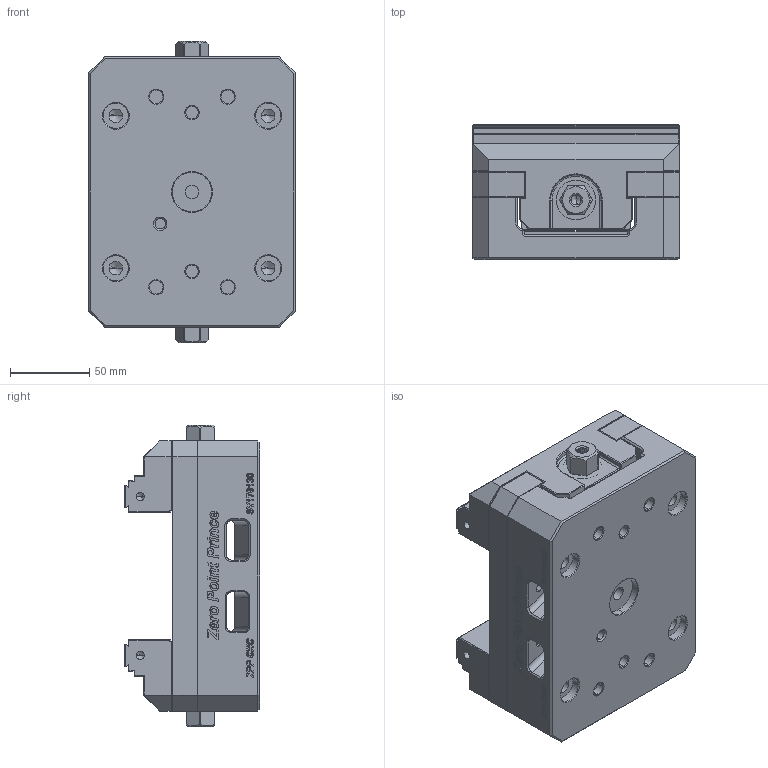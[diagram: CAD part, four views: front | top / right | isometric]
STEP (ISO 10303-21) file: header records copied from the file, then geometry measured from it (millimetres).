
FILE_DESCRIPTION((''),'2;1');
FILE_NAME('SV170130_ASM','2025-06-24T15:31:08',('XF'),(''),'CREO PARAMETRIC BY PTC INC, 2023073','CREO PARAMETRIC BY PTC INC, 2023073','');
FILE_SCHEMA(('CONFIG_CONTROL_DESIGN'));
Products named in the file (12): HQ170130_1_50_1; PIN-8_4_1; HQ170130_2_15_1; HQ170130_3_8_1; HQ170130_4_9_1; M8X18_3_1; HQ170130_6_5_1; HQ170130_5_37_1; M4X18_3_1; HQ170130_ASM_29_ASM_1_ASM; HQ170130_ASM_ASM_1_ASM; SV170130_ASM
Assembly tree (24 placements, depth 4):
  SV170130_ASM
    HQ170130_ASM_ASM_1_ASM
      HQ170130_ASM_29_ASM_1_ASM
        HQ170130_1_50_1
        PIN-8_4_1  x4
        HQ170130_2_15_1  x2
        HQ170130_3_8_1
        HQ170130_4_9_1
        M8X18_3_1  x8
        HQ170130_6_5_1
        HQ170130_5_37_1  x2
        M4X18_3_1  x2
Bounding box: 130 x 85 x 190 mm (x, y, z)
Volume: 1202827 mm3; surface area: 223235.9 mm2
Topology: 22 solids, 30 shells, 6971 faces, 18327 edges, 12084 vertices
Faces by surface type: plane 5693, extrusion 652, cylinder 274, cone 256, torus 56, bspline 40
Entity records: 133272 total; most frequent: CARTESIAN_POINT 32301, ORIENTED_EDGE 21888, DIRECTION 17807, EDGE_CURVE 10950, VECTOR 9487, LINE 8835, VERTEX_POINT 7231, EDGE_LOOP 4621
